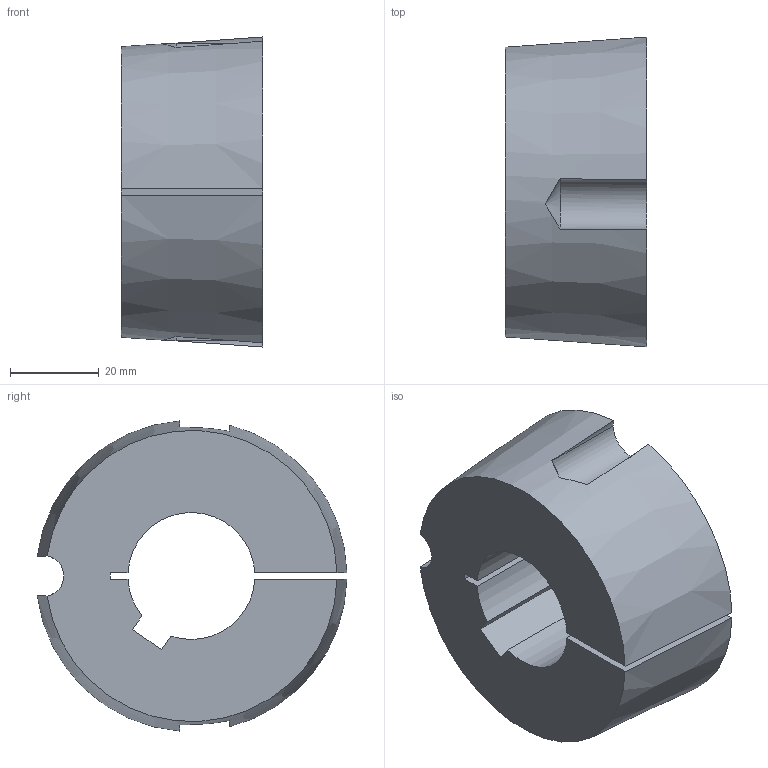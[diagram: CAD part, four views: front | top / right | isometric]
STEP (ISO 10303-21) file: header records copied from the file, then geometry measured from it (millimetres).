
FILE_DESCRIPTION( ( '' ), '1' );
FILE_NAME( 'C:/Users/StangenbergN/Desktop/06.02.2019_steps/6225052857.stp', '2019-02-06T20:01:15', ( '' ), ( '' ), ' ', ' ', ' ' );
FILE_SCHEMA( ( 'CONFIG_CONTROL_DESIGN' ) );
Length unit declared in the file: millimetre
Products named in the file (1): 1
Bounding box: 31.8 x 69.72 x 69.81 mm (x, y, z)
Volume: 88805.7 mm3; surface area: 17437 mm2
Topology: 1 solids, 1 shells, 28 faces, 76 edges, 50 vertices
Faces by surface type: cylinder 12, plane 10, cone 6
Entity records: 1106 total; most frequent: CARTESIAN_POINT 355, ORIENTED_EDGE 152, DIRECTION 148, EDGE_CURVE 76, AXIS2_PLACEMENT_3D 57, VERTEX_POINT 50, LINE 34, VECTOR 34
